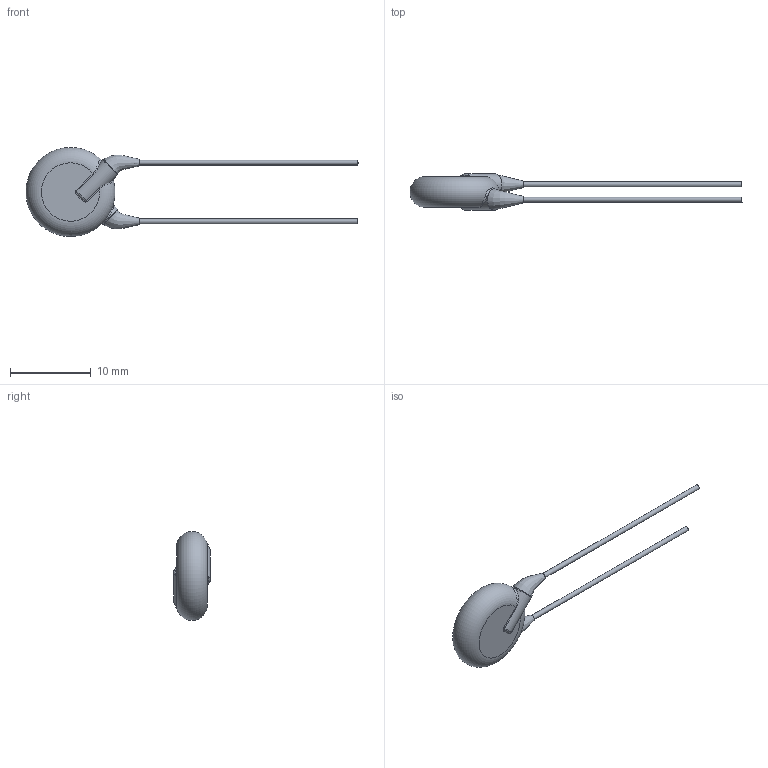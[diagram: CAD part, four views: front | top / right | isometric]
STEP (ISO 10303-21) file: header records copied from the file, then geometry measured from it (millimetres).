
FILE_DESCRIPTION(/* description */ (''),/* implementation_level */ '2;1');
FILE_NAME(/* name */ 'I:\Marketing\M6t1\3D-Models\Zchng-Werk-3\Upload for homepage\Roederstein\WYO\Y5U_250-440\WYO332MCMCF0KR\WYO332MCMCF0KR.stp',/* time_stamp */ '2018-03-21T11:06:54+01:00',/* author */ ('sheinrich'),/* organization */ (''),/* preprocessor_version */ 'ST-DEVELOPER v16.1',/* originating_system */ 'Autodesk Inventor 2016',/* authorisation */ '');
FILE_SCHEMA (('AUTOMOTIVE_DESIGN { 1 0 10303 214 3 1 1 }'));
Length unit declared in the file: centimetre
Products named in the file (1): WYO332MCMCF0KR
Bounding box: 40.99 x 4.5 x 10.99 mm (x, y, z)
Volume: 357.3 mm3; surface area: 409.7 mm2
Topology: 1 solids, 1 shells, 31 faces, 68 edges, 41 vertices
Faces by surface type: bspline 12, cylinder 8, plane 6, torus 5
Full cylindrical faces by diameter (mm): 0.6 x2
Entity records: 1769 total; most frequent: CARTESIAN_POINT 1106, ORIENTED_EDGE 128, DIRECTION 104, EDGE_CURVE 64, AXIS2_PLACEMENT_3D 48, VERTEX_POINT 40, EDGE_LOOP 36, STYLED_ITEM 32
